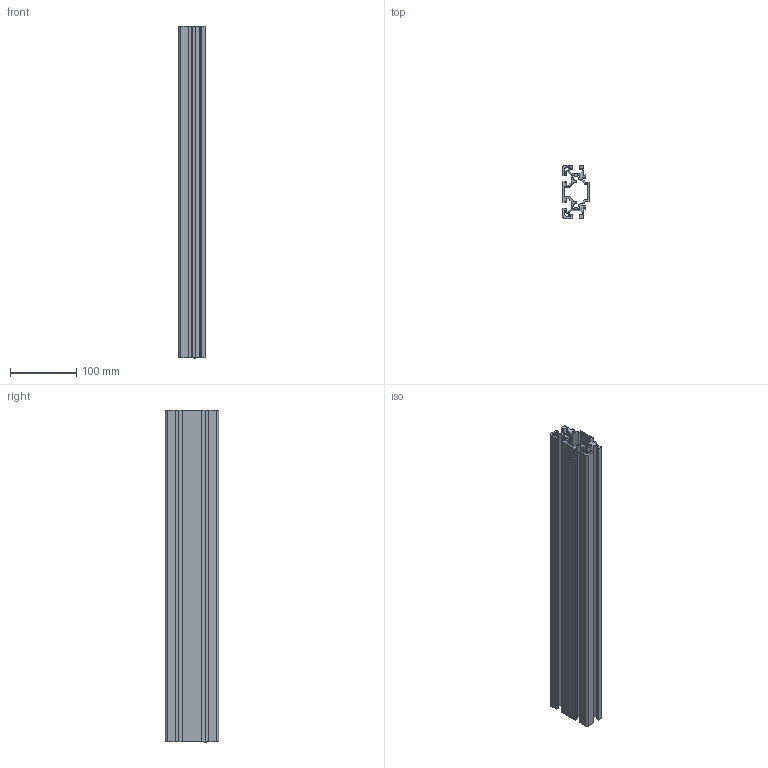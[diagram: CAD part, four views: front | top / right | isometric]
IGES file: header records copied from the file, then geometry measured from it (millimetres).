
Start section: SolidWorks IGES file using analytic representation for surfaces
Global section: file name: C:\Documents and Settings\OsadaN\デスクトップ\SFF-W82.IGS; native system: SolidWorks 2006 by SolidWorks Corporation; preprocessor: SolidWorks 2006 by SolidWorks Corporation; author: osadaN; date: 100312.104933; units: millimetre
Bounding box: 40 x 80 x 500 mm (x, y, z)
Surface area: 342929.3 mm2 (no closed solid volume)
Topology: 0 solids, 0 shells, 275 faces, 2592 edges, 2592 vertices
Faces by surface type: revolution 139, bspline 136
